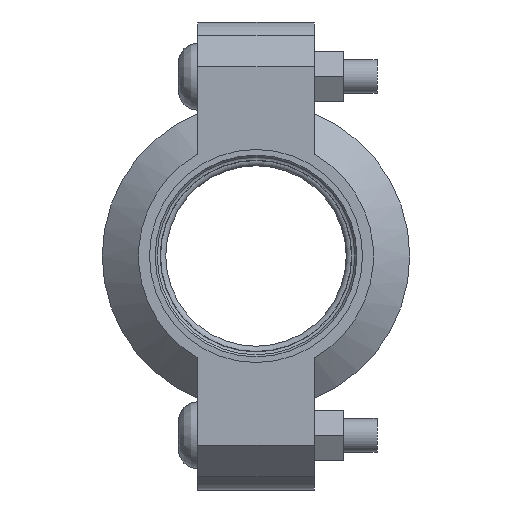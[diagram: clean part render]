
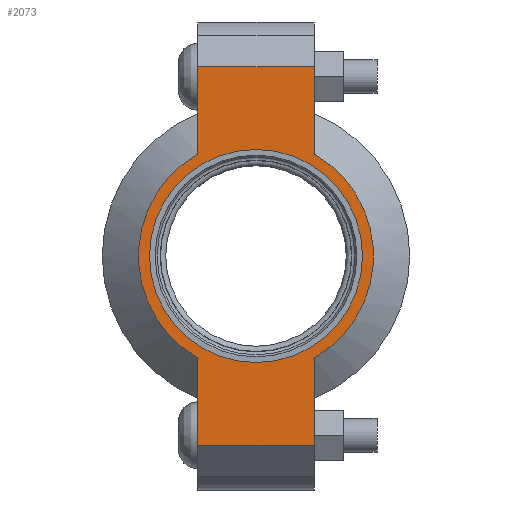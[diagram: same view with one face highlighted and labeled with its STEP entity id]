
A CAD part, left-side view. The second image highlights one B-rep face of the part: STEP entity #2073.
In plain terms, the highlighted planar face has unit normal (-1, 0, 0) as drawn and (0, 0, 1) by its records, which use the part's own axes.
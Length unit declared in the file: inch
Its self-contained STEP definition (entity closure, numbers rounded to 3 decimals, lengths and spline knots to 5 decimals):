
#206=LINE('',#3696,#305);
#214=LINE('',#3732,#313);
#221=LINE('',#3753,#320);
#230=LINE('',#3785,#329);
#231=LINE('',#3789,#330);
#232=LINE('',#3791,#331);
#305=VECTOR('',#3022,0.3937);
#313=VECTOR('',#3038,0.3937);
#320=VECTOR('',#3057,0.3937);
#329=VECTOR('',#3082,0.3937);
#330=VECTOR('',#3087,0.3937);
#331=VECTOR('',#3088,0.3937);
#391=FACE_BOUND('',#661,.T.);
#437=PLANE('',#2438);
#533=FACE_OUTER_BOUND('',#660,.T.);
#660=EDGE_LOOP('',(#1802,#1803,#1804,#1805,#1806,#1807,#1808,#1809));
#661=EDGE_LOOP('',(#1810));
#808=CIRCLE('',#2380,1.1875);
#834=CIRCLE('',#2439,1.31);
#835=CIRCLE('',#2440,1.31);
#959=VERTEX_POINT('',#3512);
#1002=VERTEX_POINT('',#3693);
#1003=VERTEX_POINT('',#3695);
#1014=VERTEX_POINT('',#3727);
#1015=VERTEX_POINT('',#3731);
#1022=VERTEX_POINT('',#3750);
#1023=VERTEX_POINT('',#3752);
#1033=VERTEX_POINT('',#3788);
#1034=VERTEX_POINT('',#3790);
#1196=EDGE_CURVE('',#959,#959,#808,.T.);
#1257=EDGE_CURVE('',#1003,#1002,#206,.T.);
#1271=EDGE_CURVE('',#1015,#1014,#214,.T.);
#1281=EDGE_CURVE('',#1023,#1022,#221,.T.);
#1296=EDGE_CURVE('',#1015,#1002,#230,.T.);
#1297=EDGE_CURVE('',#1014,#1023,#834,.T.);
#1298=EDGE_CURVE('',#1033,#1022,#231,.T.);
#1299=EDGE_CURVE('',#1033,#1034,#232,.T.);
#1300=EDGE_CURVE('',#1034,#1003,#835,.T.);
#1802=ORIENTED_EDGE('',*,*,#1296,.F.);
#1803=ORIENTED_EDGE('',*,*,#1271,.T.);
#1804=ORIENTED_EDGE('',*,*,#1297,.T.);
#1805=ORIENTED_EDGE('',*,*,#1281,.T.);
#1806=ORIENTED_EDGE('',*,*,#1298,.F.);
#1807=ORIENTED_EDGE('',*,*,#1299,.T.);
#1808=ORIENTED_EDGE('',*,*,#1300,.T.);
#1809=ORIENTED_EDGE('',*,*,#1257,.T.);
#1810=ORIENTED_EDGE('',*,*,#1196,.T.);
#2073=ADVANCED_FACE('',(#533,#391),#437,.T.);
#2380=AXIS2_PLACEMENT_3D('',#3514,#2898,#2899);
#2438=AXIS2_PLACEMENT_3D('',#3786,#3083,#3084);
#2439=AXIS2_PLACEMENT_3D('',#3787,#3085,#3086);
#2440=AXIS2_PLACEMENT_3D('',#3792,#3089,#3090);
#2898=DIRECTION('center_axis',(0.,0.,-1.));
#2899=DIRECTION('ref_axis',(1.,0.,0.));
#3022=DIRECTION('',(1.,0.,0.));
#3038=DIRECTION('',(-1.,0.,0.));
#3057=DIRECTION('',(-1.,0.,0.));
#3082=DIRECTION('',(0.,-1.,0.));
#3083=DIRECTION('center_axis',(0.,0.,1.));
#3084=DIRECTION('ref_axis',(-1.,0.,0.));
#3085=DIRECTION('center_axis',(0.,0.,1.));
#3086=DIRECTION('ref_axis',(1.,0.,0.));
#3087=DIRECTION('',(0.,1.,0.));
#3088=DIRECTION('',(1.,0.,0.));
#3089=DIRECTION('center_axis',(0.,0.,1.));
#3090=DIRECTION('ref_axis',(1.,0.,0.));
#3512=CARTESIAN_POINT('',(-1.1875,0.,0.94));
#3514=CARTESIAN_POINT('Origin',(0.,0.,0.94));
#3693=CARTESIAN_POINT('',(2.11,-0.65,0.94));
#3695=CARTESIAN_POINT('',(1.13737,-0.65,0.94));
#3696=CARTESIAN_POINT('',(2.61,-0.65,0.94));
#3727=CARTESIAN_POINT('',(1.13737,0.65,0.94));
#3731=CARTESIAN_POINT('',(2.11,0.65,0.94));
#3732=CARTESIAN_POINT('',(-2.61,0.65,0.94));
#3750=CARTESIAN_POINT('',(-2.11,0.65,0.94));
#3752=CARTESIAN_POINT('',(-1.13737,0.65,0.94));
#3753=CARTESIAN_POINT('',(-2.61,0.65,0.94));
#3785=CARTESIAN_POINT('',(2.11,-0.325,0.94));
#3786=CARTESIAN_POINT('Origin',(0.,0.,
0.94));
#3787=CARTESIAN_POINT('Origin',(0.,0.,0.94));
#3788=CARTESIAN_POINT('',(-2.11,-0.65,0.94));
#3789=CARTESIAN_POINT('',(-2.11,0.325,0.94));
#3790=CARTESIAN_POINT('',(-1.13737,-0.65,0.94));
#3791=CARTESIAN_POINT('',(2.61,-0.65,0.94));
#3792=CARTESIAN_POINT('Origin',(0.,0.,0.94));
